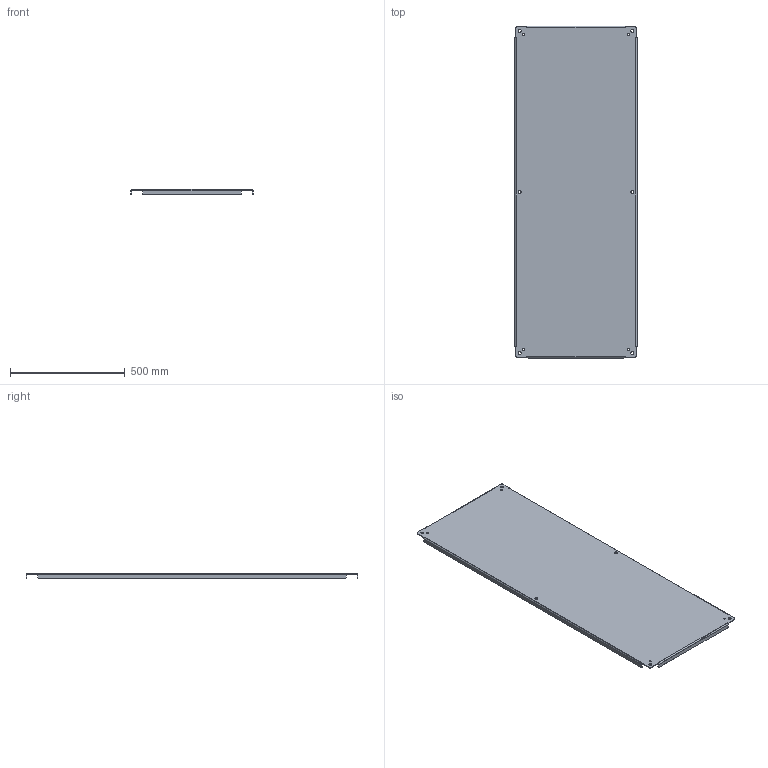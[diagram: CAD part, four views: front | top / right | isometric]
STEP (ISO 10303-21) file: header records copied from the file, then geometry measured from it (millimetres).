
FILE_DESCRIPTION((''),'2;1');
FILE_NAME('SCE-60P24_ASM','2009-04-20T',('mikek'),(''),'PRO/ENGINEER BY PARAMETRIC TECHNOLOGY CORPORATION, 2008010','PRO/ENGINEER BY PARAMETRIC TECHNOLOGY CORPORATION, 2008010','');
FILE_SCHEMA(('CONFIG_CONTROL_DESIGN'));
Length unit declared in the file: inch
Products named in the file (2): SCE-60P24-SUBPNL; SCE-60P24_ASM
Assembly tree (1 placements, depth 2):
  SCE-60P24_ASM
    SCE-60P24-SUBPNL
Bounding box: 531.81 x 1446.21 x 22.23 mm (x, y, z)
Volume: 2627974.1 mm3; surface area: 1669360.1 mm2
Topology: 1 solids, 1 shells, 102 faces, 268 edges, 168 vertices
Faces by surface type: cylinder 40, plane 38, bspline 24
Entity records: 3771 total; most frequent: CARTESIAN_POINT 1173, ORIENTED_EDGE 536, DIRECTION 510, EDGE_CURVE 268, AXIS2_PLACEMENT_3D 177, VERTEX_POINT 168, VECTOR 156, LINE 156
